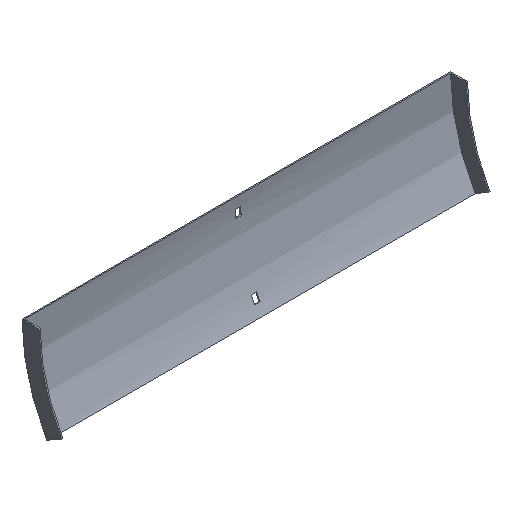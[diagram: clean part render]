
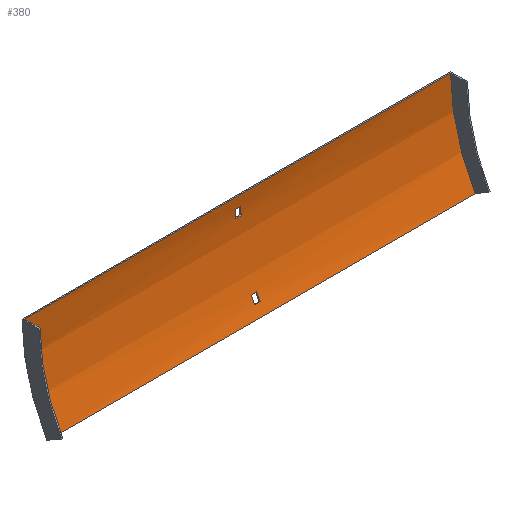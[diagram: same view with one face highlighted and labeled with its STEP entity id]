
A CAD part, isometric view. The second image highlights one B-rep face of the part: STEP entity #380.
In plain terms, the highlighted cylindrical face has radius 217.5 mm (diameter 435 mm), a partial arc.
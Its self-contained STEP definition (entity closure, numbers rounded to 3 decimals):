
#8 = VERTEX_POINT ( 'NONE', #422 ) ;
#13 = VERTEX_POINT ( 'NONE', #101 ) ;
#14 = VECTOR ( 'NONE', #350, 1000. ) ;
#17 = DIRECTION ( 'NONE',  ( 1., 0., 0. ) ) ;
#24 = ORIENTED_EDGE ( 'NONE', *, *, #566, .F. ) ;
#29 = VERTEX_POINT ( 'NONE', #382 ) ;
#30 = CIRCLE ( 'NONE', #532, 217.5 ) ;
#42 = EDGE_CURVE ( 'NONE', #29, #524, #148, .T. ) ;
#48 = AXIS2_PLACEMENT_3D ( 'NONE', #483, #333, #147 ) ;
#53 = CARTESIAN_POINT ( 'NONE',  ( 252., -1.5, 0. ) ) ;
#59 = EDGE_CURVE ( 'NONE', #236, #13, #95, .T. ) ;
#72 = CIRCLE ( 'NONE', #262, 217.5 ) ;
#91 = DIRECTION ( 'NONE',  ( 0., 0., -1. ) ) ;
#92 = ORIENTED_EDGE ( 'NONE', *, *, #494, .F. ) ;
#93 = DIRECTION ( 'NONE',  ( -1., 0., 0. ) ) ;
#95 = CIRCLE ( 'NONE', #415, 217.5 ) ;
#101 = CARTESIAN_POINT ( 'NONE',  ( -252., -1.5, 0. ) ) ;
#105 = DIRECTION ( 'NONE',  ( -1., 0., 0. ) ) ;
#108 = CARTESIAN_POINT ( 'NONE',  ( 252., -219., 0. ) ) ;
#110 = CIRCLE ( 'NONE', #447, 217.5 ) ;
#118 = LINE ( 'NONE', #499, #461 ) ;
#136 = CIRCLE ( 'NONE', #48, 217.5 ) ;
#147 = DIRECTION ( 'NONE',  ( 0., 0., 1. ) ) ;
#148 = LINE ( 'NONE', #434, #232 ) ;
#149 = FACE_OUTER_BOUND ( 'NONE', #473, .T. ) ;
#151 = DIRECTION ( 'NONE',  ( -1., 0., 0. ) ) ;
#155 = CARTESIAN_POINT ( 'NONE',  ( 253.5, -24.926, -98.192 ) ) ;
#158 = EDGE_CURVE ( 'NONE', #527, #13, #118, .T. ) ;
#184 = ORIENTED_EDGE ( 'NONE', *, *, #273, .T. ) ;
#187 = CARTESIAN_POINT ( 'NONE',  ( -3.25, -219., 0. ) ) ;
#192 = EDGE_CURVE ( 'NONE', #355, #509, #206, .T. ) ;
#196 = CARTESIAN_POINT ( 'NONE',  ( 3.25, -2.516, -21. ) ) ;
#198 = FACE_BOUND ( 'NONE', #593, .T. ) ;
#200 = CARTESIAN_POINT ( 'NONE',  ( -252., -219., 0. ) ) ;
#206 = LINE ( 'NONE', #354, #511 ) ;
#208 = CARTESIAN_POINT ( 'NONE',  ( -3.25, -1.831, -12. ) ) ;
#229 = EDGE_CURVE ( 'NONE', #509, #260, #110, .T. ) ;
#230 = CARTESIAN_POINT ( 'NONE',  ( -3.25, -219., 0. ) ) ;
#231 = ORIENTED_EDGE ( 'NONE', *, *, #339, .T. ) ;
#232 = VECTOR ( 'NONE', #289, 1000. ) ;
#235 = CARTESIAN_POINT ( 'NONE',  ( 252., -30.639, -108.75 ) ) ;
#236 = VERTEX_POINT ( 'NONE', #315 ) ;
#260 = VERTEX_POINT ( 'NONE', #404 ) ;
#261 = EDGE_CURVE ( 'NONE', #476, #8, #596, .T. ) ;
#262 = AXIS2_PLACEMENT_3D ( 'NONE', #108, #17, #388 ) ;
#272 = ORIENTED_EDGE ( 'NONE', *, *, #158, .T. ) ;
#273 = EDGE_CURVE ( 'NONE', #539, #527, #72, .T. ) ;
#275 = CARTESIAN_POINT ( 'NONE',  ( 253.5, -1.831, -12. ) ) ;
#289 = DIRECTION ( 'NONE',  ( 1., 0., 0. ) ) ;
#290 = CYLINDRICAL_SURFACE ( 'NONE', #601, 217.5 ) ;
#315 = CARTESIAN_POINT ( 'NONE',  ( -252., -30.639, -108.75 ) ) ;
#322 = CARTESIAN_POINT ( 'NONE',  ( 3.25, -24.926, -98.192 ) ) ;
#329 = DIRECTION ( 'NONE',  ( 0., 0., 1. ) ) ;
#333 = DIRECTION ( 'NONE',  ( -1., 0., 0. ) ) ;
#339 = EDGE_CURVE ( 'NONE', #524, #476, #136, .T. ) ;
#342 = FACE_BOUND ( 'NONE', #403, .T. ) ;
#344 = DIRECTION ( 'NONE',  ( 0., 0., 1. ) ) ;
#346 = ORIENTED_EDGE ( 'NONE', *, *, #192, .F. ) ;
#350 = DIRECTION ( 'NONE',  ( -1., 0., 0. ) ) ;
#354 = CARTESIAN_POINT ( 'NONE',  ( 253.5, -2.516, -21. ) ) ;
#355 = VERTEX_POINT ( 'NONE', #525 ) ;
#359 = DIRECTION ( 'NONE',  ( 0., 0., -1. ) ) ;
#360 = CIRCLE ( 'NONE', #427, 217.5 ) ;
#380 = ADVANCED_FACE ( 'NONE', ( #198, #149, #342 ), #290, .F. ) ;
#381 = LINE ( 'NONE', #235, #14 ) ;
#382 = CARTESIAN_POINT ( 'NONE',  ( -3.25, -21.02, -90.055 ) ) ;
#385 = DIRECTION ( 'NONE',  ( 1., 0., 0. ) ) ;
#388 = DIRECTION ( 'NONE',  ( 0., 0., 1. ) ) ;
#401 = CARTESIAN_POINT ( 'NONE',  ( 3.25, -219., 0. ) ) ;
#403 = EDGE_LOOP ( 'NONE', ( #503, #558, #556, #231 ) ) ;
#404 = CARTESIAN_POINT ( 'NONE',  ( 3.25, -1.831, -12. ) ) ;
#412 = DIRECTION ( 'NONE',  ( -1., 0., 0. ) ) ;
#415 = AXIS2_PLACEMENT_3D ( 'NONE', #200, #385, #520 ) ;
#420 = EDGE_CURVE ( 'NONE', #8, #29, #30, .T. ) ;
#422 = CARTESIAN_POINT ( 'NONE',  ( -3.25, -24.926, -98.192 ) ) ;
#427 = AXIS2_PLACEMENT_3D ( 'NONE', #187, #93, #329 ) ;
#434 = CARTESIAN_POINT ( 'NONE',  ( 253.5, -21.02, -90.055 ) ) ;
#444 = EDGE_CURVE ( 'NONE', #595, #355, #360, .T. ) ;
#447 = AXIS2_PLACEMENT_3D ( 'NONE', #401, #594, #359 ) ;
#461 = VECTOR ( 'NONE', #502, 1000. ) ;
#466 = LINE ( 'NONE', #275, #484 ) ;
#468 = DIRECTION ( 'NONE',  ( 1., 0., 0. ) ) ;
#473 = EDGE_LOOP ( 'NONE', ( #552, #24, #184, #272 ) ) ;
#476 = VERTEX_POINT ( 'NONE', #322 ) ;
#483 = CARTESIAN_POINT ( 'NONE',  ( 3.25, -219., 0. ) ) ;
#484 = VECTOR ( 'NONE', #412, 1000. ) ;
#494 = EDGE_CURVE ( 'NONE', #260, #595, #466, .T. ) ;
#499 = CARTESIAN_POINT ( 'NONE',  ( 252., -1.5, 0. ) ) ;
#500 = ORIENTED_EDGE ( 'NONE', *, *, #229, .F. ) ;
#502 = DIRECTION ( 'NONE',  ( -1., 0., 0. ) ) ;
#503 = ORIENTED_EDGE ( 'NONE', *, *, #261, .T. ) ;
#509 = VERTEX_POINT ( 'NONE', #196 ) ;
#511 = VECTOR ( 'NONE', #542, 1000. ) ;
#519 = CARTESIAN_POINT ( 'NONE',  ( 3.25, -21.02, -90.055 ) ) ;
#520 = DIRECTION ( 'NONE',  ( 0., 0., 1. ) ) ;
#524 = VERTEX_POINT ( 'NONE', #519 ) ;
#525 = CARTESIAN_POINT ( 'NONE',  ( -3.25, -2.516, -21. ) ) ;
#526 = CARTESIAN_POINT ( 'NONE',  ( 252., -30.639, -108.75 ) ) ;
#527 = VERTEX_POINT ( 'NONE', #53 ) ;
#530 = VECTOR ( 'NONE', #105, 1000. ) ;
#532 = AXIS2_PLACEMENT_3D ( 'NONE', #230, #468, #91 ) ;
#539 = VERTEX_POINT ( 'NONE', #526 ) ;
#542 = DIRECTION ( 'NONE',  ( 1., 0., 0. ) ) ;
#543 = ORIENTED_EDGE ( 'NONE', *, *, #444, .F. ) ;
#552 = ORIENTED_EDGE ( 'NONE', *, *, #59, .F. ) ;
#556 = ORIENTED_EDGE ( 'NONE', *, *, #42, .T. ) ;
#558 = ORIENTED_EDGE ( 'NONE', *, *, #420, .T. ) ;
#566 = EDGE_CURVE ( 'NONE', #539, #236, #381, .T. ) ;
#579 = CARTESIAN_POINT ( 'NONE',  ( 253.5, -219., 0. ) ) ;
#593 = EDGE_LOOP ( 'NONE', ( #543, #92, #500, #346 ) ) ;
#594 = DIRECTION ( 'NONE',  ( 1., 0., 0. ) ) ;
#595 = VERTEX_POINT ( 'NONE', #208 ) ;
#596 = LINE ( 'NONE', #155, #530 ) ;
#601 = AXIS2_PLACEMENT_3D ( 'NONE', #579, #151, #344 ) ;
